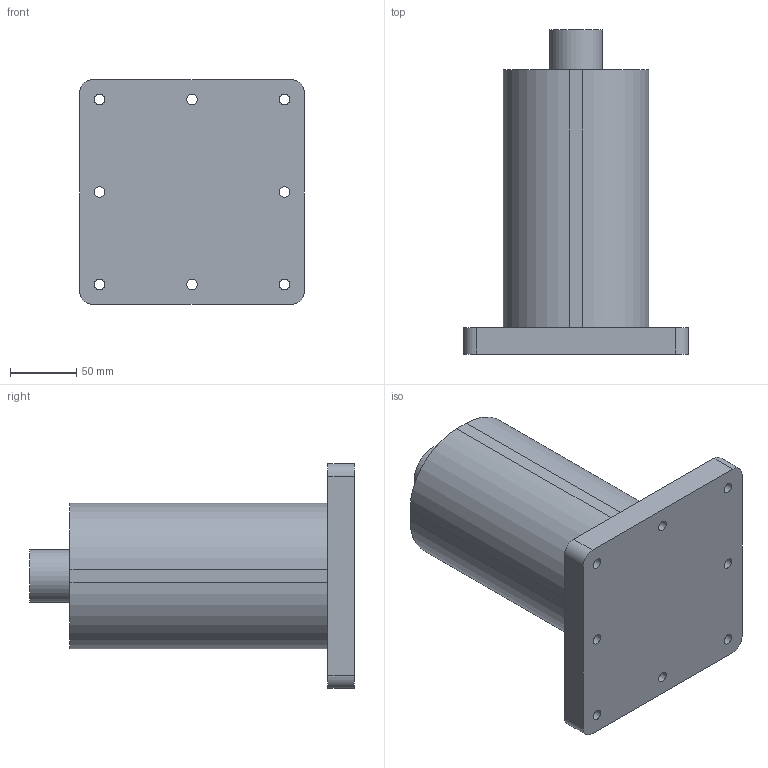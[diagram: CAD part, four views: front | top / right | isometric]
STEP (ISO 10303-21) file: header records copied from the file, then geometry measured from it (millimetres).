
FILE_DESCRIPTION(/* description */ (''),/* implementation_level */ '2;1');
FILE_NAME(/* name */ 'czlon1.step',/* time_stamp */ '2026-02-28T17:10:24+01:00',/* author */ (''),/* organization */ (''),/* preprocessor_version */ 'ST-DEVELOPER v20.1',/* originating_system */ 'Autodesk Translation Framework v14.24.0.0',/* authorisation */ '');
FILE_SCHEMA (('AUTOMOTIVE_DESIGN { 1 0 10303 214 3 1 1 }'));
Length unit declared in the file: millimetre
Products named in the file (1): czlon1
Bounding box: 170 x 245.5 x 170 mm (x, y, z)
Volume: 2547594.6 mm3; surface area: 146995.7 mm2
Topology: 1 solids, 1 shells, 29 faces, 75 edges, 50 vertices
Faces by surface type: cylinder 17, plane 12
Full cylindrical faces by diameter (mm): 8 x8, 40 x1
Entity records: 968 total; most frequent: DIRECTION 169, CARTESIAN_POINT 155, ORIENTED_EDGE 150, EDGE_CURVE 75, AXIS2_PLACEMENT_3D 64, VERTEX_POINT 50, EDGE_LOOP 47, LINE 41
